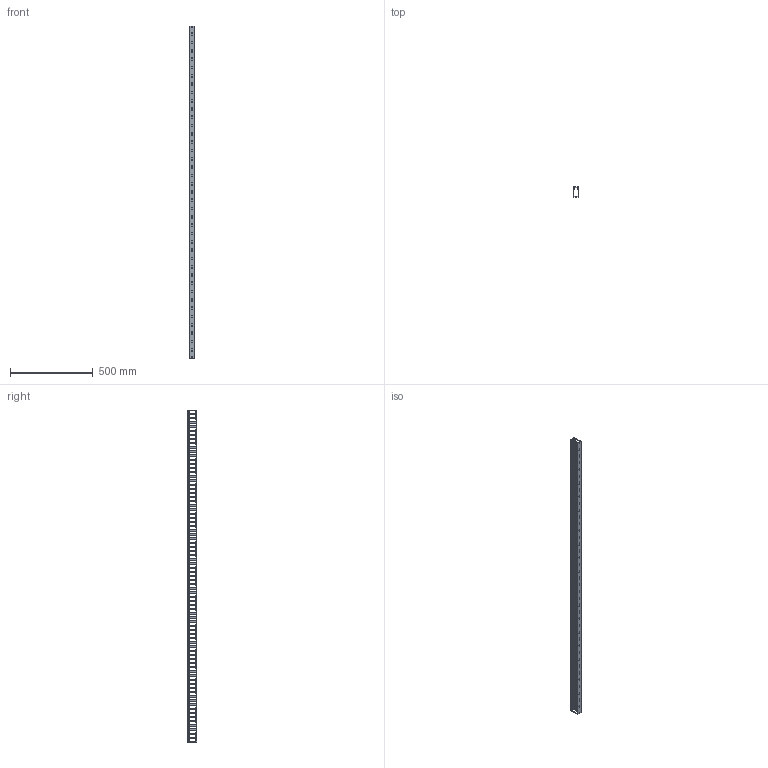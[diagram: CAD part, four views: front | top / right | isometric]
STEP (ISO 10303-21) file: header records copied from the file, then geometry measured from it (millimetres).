
FILE_DESCRIPTION (( 'STEP AP214' ), '1' );
FILE_NAME ('KD-36-20-LL.STEP', '2020-02-19T00:15:05', ( '' ), ( '' ), 'SwSTEP 2.0', 'SolidWorks 2018', '' );
FILE_SCHEMA (( 'AUTOMOTIVE_DESIGN' ));
Length unit declared in the file: millimetre
Products named in the file (3): KD-34-20-cover; KD-36-20-LL; KD-36-20-LL-body
Assembly tree (2 placements, depth 2):
  KD-36-20-LL
    KD-36-20-LL-body
    KD-34-20-cover
Bounding box: 30 x 60.17 x 2000 mm (x, y, z)
Volume: 498578 mm3; surface area: 672598 mm2
Topology: 2 solids, 2 shells, 1546 faces, 4626 edges, 3084 vertices
Faces by surface type: cylinder 794, plane 752
Entity records: 53424 total; most frequent: DIRECTION 9316, CARTESIAN_POINT 9261, ORIENTED_EDGE 9252, EDGE_CURVE 4626, AXIS2_PLACEMENT_3D 3139, VERTEX_POINT 3084, VECTOR 3038, LINE 3038
